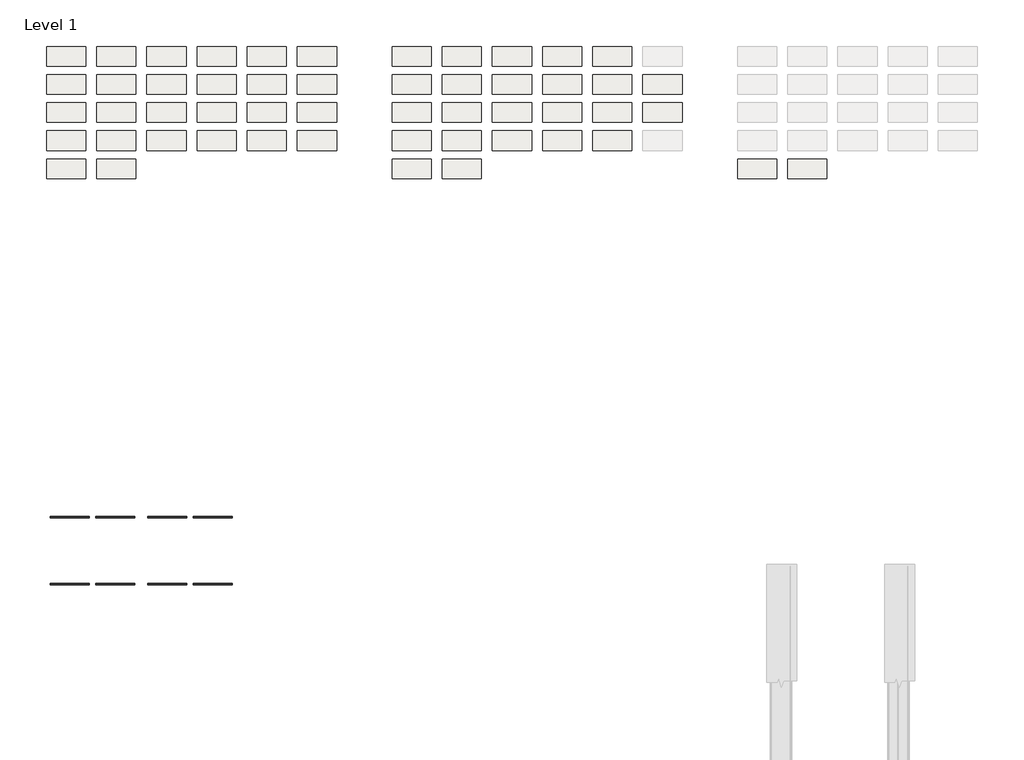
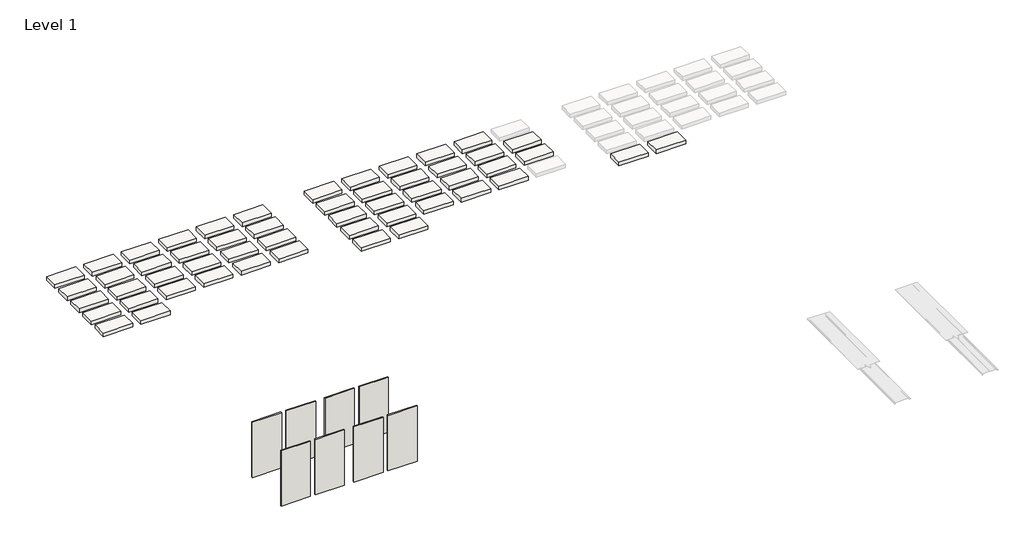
# One storey, part 1 of 2: 52 slabs, 8 walls.
"""IFC4 building model written with IfcOpenShell, lengths in millimetres."""

from ifc_helpers import new_model, si_unit, frame, origin, origin_with_axes, place, context, project, spatial, polyline, outline, extrude, element, save

model = new_model("IFC4")

# Units and contexts
model_context = context("Model", 3, world=origin())
ifc_project = project(units=[si_unit("LENGTHUNIT", "METRE", prefix="MILLI")], contexts=[model_context])

# Site, building, storey
site = spatial("IfcSite", under=ifc_project)
building = spatial("IfcBuilding", under=site)
storey = spatial("IfcBuildingStorey", under=building, Name="Level 1", Elevation=0.0)

# Slabs
placement = place(None, origin())
element("IfcSlab", 1, ObjectType="AEP Span Material Sample", at=placement, inside=storey, context=model_context, shape_type="SweptSolid", body=[
    extrude(outline(polyline([(-4307.8660775, 7199.3976846), (-4917.4660775, 7199.3976846), (-4917.4660775, 7504.1976846), (-4307.8660775, 7504.1976846), (-4307.8660775, 7199.3976846)])), frame((0.0, 0.0, -79.375), z_axis=(0.0, 0.0, 1.0), x_axis=(1.0, 0.0, 0.0)), (0.0, 0.0, 1.0), 79.375),
])
element("IfcSlab", 2, ObjectType="AEP Span Material Sample", at=placement, inside=storey, context=model_context, shape_type="SweptSolid", body=[
    extrude(outline(polyline([(-3526.8160775, 7199.3976846), (-4136.4160775, 7199.3976846), (-4136.4160775, 7504.1976846), (-3526.8160775, 7504.1976846), (-3526.8160775, 7199.3976846)])), frame((0.0, 0.0, -79.375), z_axis=(0.0, 0.0, 1.0), x_axis=(1.0, 0.0, 0.0)), (0.0, 0.0, 1.0), 79.375),
])
element("IfcSlab", 3, ObjectType="AEP Span Material Sample", at=placement, inside=storey, context=model_context, shape_type="SweptSolid", body=[
    extrude(outline(polyline([(-2745.7660775, 7199.3976846), (-3355.3660775, 7199.3976846), (-3355.3660775, 7504.1976846), (-2745.7660775, 7504.1976846), (-2745.7660775, 7199.3976846)])), frame((0.0, 0.0, -79.375), z_axis=(0.0, 0.0, 1.0), x_axis=(1.0, 0.0, 0.0)), (0.0, 0.0, 1.0), 79.375),
])
element("IfcSlab", 4, ObjectType="AEP Span Material Sample", at=placement, inside=storey, context=model_context, shape_type="SweptSolid", body=[
    extrude(outline(polyline([(-1964.7160775, 7199.3976846), (-2574.3160775, 7199.3976846), (-2574.3160775, 7504.1976846), (-1964.7160775, 7504.1976846), (-1964.7160775, 7199.3976846)])), frame((0.0, 0.0, -79.375), z_axis=(0.0, 0.0, 1.0), x_axis=(1.0, 0.0, 0.0)), (0.0, 0.0, 1.0), 79.375),
])
element("IfcSlab", 5, ObjectType="AEP Span Material Sample", at=placement, inside=storey, context=model_context, shape_type="SweptSolid", body=[
    extrude(outline(polyline([(-1183.6660775, 7199.3976846), (-1793.2660775, 7199.3976846), (-1793.2660775, 7504.1976846), (-1183.6660775, 7504.1976846), (-1183.6660775, 7199.3976846)])), frame((0.0, 0.0, -79.375), z_axis=(0.0, 0.0, 1.0), x_axis=(1.0, 0.0, 0.0)), (0.0, 0.0, 1.0), 79.375),
])
element("IfcSlab", 6, ObjectType="AEP Span Material Sample", at=placement, inside=storey, context=model_context, shape_type="SweptSolid", body=[
    extrude(outline(polyline([(-402.6160775, 7199.3976846), (-1012.2160775, 7199.3976846), (-1012.2160775, 7504.1976846), (-402.6160775, 7504.1976846), (-402.6160775, 7199.3976846)])), frame((0.0, 0.0, -79.375), z_axis=(0.0, 0.0, 1.0), x_axis=(1.0, 0.0, 0.0)), (0.0, 0.0, 1.0), 79.375),
])
element("IfcSlab", 7, ObjectType="AEP Span Material Sample", at=placement, inside=storey, context=model_context, shape_type="SweptSolid", body=[
    extrude(outline(polyline([(-4307.8660775, 6761.2476846), (-4917.4660775, 6761.2476846), (-4917.4660775, 7066.0476846), (-4307.8660775, 7066.0476846), (-4307.8660775, 6761.2476846)])), frame((0.0, 0.0, -79.375), z_axis=(0.0, 0.0, 1.0), x_axis=(1.0, 0.0, 0.0)), (0.0, 0.0, 1.0), 79.375),
])
element("IfcSlab", 8, ObjectType="AEP Span Material Sample", at=placement, inside=storey, context=model_context, shape_type="SweptSolid", body=[
    extrude(outline(polyline([(-3526.8160775, 6761.2476846), (-4136.4160775, 6761.2476846), (-4136.4160775, 7066.0476846), (-3526.8160775, 7066.0476846), (-3526.8160775, 6761.2476846)])), frame((0.0, 0.0, -79.375), z_axis=(0.0, 0.0, 1.0), x_axis=(1.0, 0.0, 0.0)), (0.0, 0.0, 1.0), 79.375),
])
element("IfcSlab", 9, ObjectType="AEP Span Material Sample", at=placement, inside=storey, context=model_context, shape_type="SweptSolid", body=[
    extrude(outline(polyline([(-2745.7660775, 6761.2476846), (-3355.3660775, 6761.2476846), (-3355.3660775, 7066.0476846), (-2745.7660775, 7066.0476846), (-2745.7660775, 6761.2476846)])), frame((0.0, 0.0, -79.375), z_axis=(0.0, 0.0, 1.0), x_axis=(1.0, 0.0, 0.0)), (0.0, 0.0, 1.0), 79.375),
])
element("IfcSlab", 10, ObjectType="AEP Span Material Sample", at=placement, inside=storey, context=model_context, shape_type="SweptSolid", body=[
    extrude(outline(polyline([(-1964.7160775, 6761.2476846), (-2574.3160775, 6761.2476846), (-2574.3160775, 7066.0476846), (-1964.7160775, 7066.0476846), (-1964.7160775, 6761.2476846)])), frame((0.0, 0.0, -79.375), z_axis=(0.0, 0.0, 1.0), x_axis=(1.0, 0.0, 0.0)), (0.0, 0.0, 1.0), 79.375),
])
element("IfcSlab", 11, ObjectType="AEP Span Material Sample", at=placement, inside=storey, context=model_context, shape_type="SweptSolid", body=[
    extrude(outline(polyline([(-1183.6660775, 6761.2476846), (-1793.2660775, 6761.2476846), (-1793.2660775, 7066.0476846), (-1183.6660775, 7066.0476846), (-1183.6660775, 6761.2476846)])), frame((0.0, 0.0, -79.375), z_axis=(0.0, 0.0, 1.0), x_axis=(1.0, 0.0, 0.0)), (0.0, 0.0, 1.0), 79.375),
])
element("IfcSlab", 12, ObjectType="AEP Span Material Sample", at=placement, inside=storey, context=model_context, shape_type="SweptSolid", body=[
    extrude(outline(polyline([(-402.6160775, 6761.2476846), (-1012.2160775, 6761.2476846), (-1012.2160775, 7066.0476846), (-402.6160775, 7066.0476846), (-402.6160775, 6761.2476846)])), frame((0.0, 0.0, -79.375), z_axis=(0.0, 0.0, 1.0), x_axis=(1.0, 0.0, 0.0)), (0.0, 0.0, 1.0), 79.375),
])
element("IfcSlab", 13, ObjectType="AEP Span Material Sample", at=placement, inside=storey, context=model_context, shape_type="SweptSolid", body=[
    extrude(outline(polyline([(-4307.8660775, 6323.0976846), (-4917.4660775, 6323.0976846), (-4917.4660775, 6627.8976846), (-4307.8660775, 6627.8976846), (-4307.8660775, 6323.0976846)])), frame((0.0, 0.0, -79.375), z_axis=(0.0, 0.0, 1.0), x_axis=(1.0, 0.0, 0.0)), (0.0, 0.0, 1.0), 79.375),
])
element("IfcSlab", 14, ObjectType="AEP Span Material Sample", at=placement, inside=storey, context=model_context, shape_type="SweptSolid", body=[
    extrude(outline(polyline([(-3526.8160775, 6323.0976846), (-4136.4160775, 6323.0976846), (-4136.4160775, 6627.8976846), (-3526.8160775, 6627.8976846), (-3526.8160775, 6323.0976846)])), frame((0.0, 0.0, -79.375), z_axis=(0.0, 0.0, 1.0), x_axis=(1.0, 0.0, 0.0)), (0.0, 0.0, 1.0), 79.375),
])
element("IfcSlab", 15, ObjectType="AEP Span Material Sample", at=placement, inside=storey, context=model_context, shape_type="SweptSolid", body=[
    extrude(outline(polyline([(-2745.7660775, 6323.0976846), (-3355.3660775, 6323.0976846), (-3355.3660775, 6627.8976846), (-2745.7660775, 6627.8976846), (-2745.7660775, 6323.0976846)])), frame((0.0, 0.0, -79.375), z_axis=(0.0, 0.0, 1.0), x_axis=(1.0, 0.0, 0.0)), (0.0, 0.0, 1.0), 79.375),
])
element("IfcSlab", 16, ObjectType="AEP Span Material Sample", at=placement, inside=storey, context=model_context, shape_type="SweptSolid", body=[
    extrude(outline(polyline([(-1964.7160775, 6323.0976846), (-2574.3160775, 6323.0976846), (-2574.3160775, 6627.8976846), (-1964.7160775, 6627.8976846), (-1964.7160775, 6323.0976846)])), frame((0.0, 0.0, -79.375), z_axis=(0.0, 0.0, 1.0), x_axis=(1.0, 0.0, 0.0)), (0.0, 0.0, 1.0), 79.375),
])
element("IfcSlab", 17, ObjectType="AEP Span Material Sample", at=placement, inside=storey, context=model_context, shape_type="SweptSolid", body=[
    extrude(outline(polyline([(-1183.6660775, 6323.0976846), (-1793.2660775, 6323.0976846), (-1793.2660775, 6627.8976846), (-1183.6660775, 6627.8976846), (-1183.6660775, 6323.0976846)])), frame((0.0, 0.0, -79.375), z_axis=(0.0, 0.0, 1.0), x_axis=(1.0, 0.0, 0.0)), (0.0, 0.0, 1.0), 79.375),
])
element("IfcSlab", 18, ObjectType="AEP Span Material Sample", at=placement, inside=storey, context=model_context, shape_type="SweptSolid", body=[
    extrude(outline(polyline([(-402.6160775, 6323.0976846), (-1012.2160775, 6323.0976846), (-1012.2160775, 6627.8976846), (-402.6160775, 6627.8976846), (-402.6160775, 6323.0976846)])), frame((0.0, 0.0, -79.375), z_axis=(0.0, 0.0, 1.0), x_axis=(1.0, 0.0, 0.0)), (0.0, 0.0, 1.0), 79.375),
])
element("IfcSlab", 19, ObjectType="AEP Span Material Sample", at=placement, inside=storey, context=model_context, shape_type="SweptSolid", body=[
    extrude(outline(polyline([(-4307.8660775, 5884.9476846), (-4917.4660775, 5884.9476846), (-4917.4660775, 6189.7476846), (-4307.8660775, 6189.7476846), (-4307.8660775, 5884.9476846)])), frame((0.0, 0.0, -79.375), z_axis=(0.0, 0.0, 1.0), x_axis=(1.0, 0.0, 0.0)), (0.0, 0.0, 1.0), 79.375),
])
element("IfcSlab", 20, ObjectType="AEP Span Material Sample", at=placement, inside=storey, context=model_context, shape_type="SweptSolid", body=[
    extrude(outline(polyline([(-3526.8160775, 5884.9476846), (-4136.4160775, 5884.9476846), (-4136.4160775, 6189.7476846), (-3526.8160775, 6189.7476846), (-3526.8160775, 5884.9476846)])), frame((0.0, 0.0, -79.375), z_axis=(0.0, 0.0, 1.0), x_axis=(1.0, 0.0, 0.0)), (0.0, 0.0, 1.0), 79.375),
])
element("IfcSlab", 21, ObjectType="AEP Span Material Sample", at=placement, inside=storey, context=model_context, shape_type="SweptSolid", body=[
    extrude(outline(polyline([(-2745.7660775, 5884.9476846), (-3355.3660775, 5884.9476846), (-3355.3660775, 6189.7476846), (-2745.7660775, 6189.7476846), (-2745.7660775, 5884.9476846)])), frame((0.0, 0.0, -79.375), z_axis=(0.0, 0.0, 1.0), x_axis=(1.0, 0.0, 0.0)), (0.0, 0.0, 1.0), 79.375),
])
element("IfcSlab", 22, ObjectType="AEP Span Material Sample", at=placement, inside=storey, context=model_context, shape_type="SweptSolid", body=[
    extrude(outline(polyline([(-1964.7160775, 5884.9476846), (-2574.3160775, 5884.9476846), (-2574.3160775, 6189.7476846), (-1964.7160775, 6189.7476846), (-1964.7160775, 5884.9476846)])), frame((0.0, 0.0, -79.375), z_axis=(0.0, 0.0, 1.0), x_axis=(1.0, 0.0, 0.0)), (0.0, 0.0, 1.0), 79.375),
])
element("IfcSlab", 23, ObjectType="AEP Span Material Sample", at=placement, inside=storey, context=model_context, shape_type="SweptSolid", body=[
    extrude(outline(polyline([(-1183.6660775, 5884.9476846), (-1793.2660775, 5884.9476846), (-1793.2660775, 6189.7476846), (-1183.6660775, 6189.7476846), (-1183.6660775, 5884.9476846)])), frame((0.0, 0.0, -79.375), z_axis=(0.0, 0.0, 1.0), x_axis=(1.0, 0.0, 0.0)), (0.0, 0.0, 1.0), 79.375),
])
element("IfcSlab", 24, ObjectType="AEP Span Material Sample", at=placement, inside=storey, context=model_context, shape_type="SweptSolid", body=[
    extrude(outline(polyline([(-402.6160775, 5884.9476846), (-1012.2160775, 5884.9476846), (-1012.2160775, 6189.7476846), (-402.6160775, 6189.7476846), (-402.6160775, 5884.9476846)])), frame((0.0, 0.0, -79.375), z_axis=(0.0, 0.0, 1.0), x_axis=(1.0, 0.0, 0.0)), (0.0, 0.0, 1.0), 79.375),
])
element("IfcSlab", 25, ObjectType="AEP Span Material Sample", at=placement, inside=storey, context=model_context, shape_type="SweptSolid", body=[
    extrude(outline(polyline([(-4307.8660775, 5446.7976846), (-4917.4660775, 5446.7976846), (-4917.4660775, 5751.5976846), (-4307.8660775, 5751.5976846), (-4307.8660775, 5446.7976846)])), frame((0.0, 0.0, -79.375), z_axis=(0.0, 0.0, 1.0), x_axis=(1.0, 0.0, 0.0)), (0.0, 0.0, 1.0), 79.375),
])
element("IfcSlab", 26, ObjectType="AEP Span Material Sample", at=placement, inside=storey, context=model_context, shape_type="SweptSolid", body=[
    extrude(outline(polyline([(-3526.8160775, 5446.7976846), (-4136.4160775, 5446.7976846), (-4136.4160775, 5751.5976846), (-3526.8160775, 5751.5976846), (-3526.8160775, 5446.7976846)])), frame((0.0, 0.0, -79.375), z_axis=(0.0, 0.0, 1.0), x_axis=(1.0, 0.0, 0.0)), (0.0, 0.0, 1.0), 79.375),
])
element("IfcSlab", 27, ObjectType="AEP Span Material Sample", at=placement, inside=storey, context=model_context, shape_type="SweptSolid", body=[
    extrude(outline(polyline([(1070.5839225, 7199.3976846), (460.9839225, 7199.3976846), (460.9839225, 7504.1976846), (1070.5839225, 7504.1976846), (1070.5839225, 7199.3976846)])), frame((0.0, 0.0, -79.375), z_axis=(0.0, 0.0, 1.0), x_axis=(1.0, 0.0, 0.0)), (0.0, 0.0, 1.0), 79.375),
])
element("IfcSlab", 28, ObjectType="AEP Span Material Sample", at=placement, inside=storey, context=model_context, shape_type="SweptSolid", body=[
    extrude(outline(polyline([(1851.6339225, 7199.3976846), (1242.0339225, 7199.3976846), (1242.0339225, 7504.1976846), (1851.6339225, 7504.1976846), (1851.6339225, 7199.3976846)])), frame((0.0, 0.0, -79.375), z_axis=(0.0, 0.0, 1.0), x_axis=(1.0, 0.0, 0.0)), (0.0, 0.0, 1.0), 79.375),
])
element("IfcSlab", 29, ObjectType="AEP Span Material Sample", at=placement, inside=storey, context=model_context, shape_type="SweptSolid", body=[
    extrude(outline(polyline([(2632.6839225, 7199.3976846), (2023.0839225, 7199.3976846), (2023.0839225, 7504.1976846), (2632.6839225, 7504.1976846), (2632.6839225, 7199.3976846)])), frame((0.0, 0.0, -79.375), z_axis=(0.0, 0.0, 1.0), x_axis=(1.0, 0.0, 0.0)), (0.0, 0.0, 1.0), 79.375),
])
element("IfcSlab", 30, ObjectType="AEP Span Material Sample", at=placement, inside=storey, context=model_context, shape_type="SweptSolid", body=[
    extrude(outline(polyline([(3413.7339225, 7199.3976846), (2804.1339225, 7199.3976846), (2804.1339225, 7504.1976846), (3413.7339225, 7504.1976846), (3413.7339225, 7199.3976846)])), frame((0.0, 0.0, -79.375), z_axis=(0.0, 0.0, 1.0), x_axis=(1.0, 0.0, 0.0)), (0.0, 0.0, 1.0), 79.375),
])
element("IfcSlab", 31, ObjectType="AEP Span Material Sample", at=placement, inside=storey, context=model_context, shape_type="SweptSolid", body=[
    extrude(outline(polyline([(4194.7839225, 7199.3976846), (3585.1839225, 7199.3976846), (3585.1839225, 7504.1976846), (4194.7839225, 7504.1976846), (4194.7839225, 7199.3976846)])), frame((0.0, 0.0, -79.375), z_axis=(0.0, 0.0, 1.0), x_axis=(1.0, 0.0, 0.0)), (0.0, 0.0, 1.0), 79.375),
])
element("IfcSlab", 32, ObjectType="AEP Span Material Sample", at=placement, inside=storey, context=model_context, shape_type="SweptSolid", body=[
    extrude(outline(polyline([(1070.5839225, 6761.2476846), (460.9839225, 6761.2476846), (460.9839225, 7066.0476846), (1070.5839225, 7066.0476846), (1070.5839225, 6761.2476846)])), frame((0.0, 0.0, -79.375), z_axis=(0.0, 0.0, 1.0), x_axis=(1.0, 0.0, 0.0)), (0.0, 0.0, 1.0), 79.375),
])
element("IfcSlab", 33, ObjectType="AEP Span Material Sample", at=placement, inside=storey, context=model_context, shape_type="SweptSolid", body=[
    extrude(outline(polyline([(1851.6339225, 6761.2476846), (1242.0339225, 6761.2476846), (1242.0339225, 7066.0476846), (1851.6339225, 7066.0476846), (1851.6339225, 6761.2476846)])), frame((0.0, 0.0, -79.375), z_axis=(0.0, 0.0, 1.0), x_axis=(1.0, 0.0, 0.0)), (0.0, 0.0, 1.0), 79.375),
])
element("IfcSlab", 34, ObjectType="AEP Span Material Sample", at=placement, inside=storey, context=model_context, shape_type="SweptSolid", body=[
    extrude(outline(polyline([(2632.6839225, 6761.2476846), (2023.0839225, 6761.2476846), (2023.0839225, 7066.0476846), (2632.6839225, 7066.0476846), (2632.6839225, 6761.2476846)])), frame((0.0, 0.0, -79.375), z_axis=(0.0, 0.0, 1.0), x_axis=(1.0, 0.0, 0.0)), (0.0, 0.0, 1.0), 79.375),
])
element("IfcSlab", 35, ObjectType="AEP Span Material Sample", at=placement, inside=storey, context=model_context, shape_type="SweptSolid", body=[
    extrude(outline(polyline([(3413.7339225, 6761.2476846), (2804.1339225, 6761.2476846), (2804.1339225, 7066.0476846), (3413.7339225, 7066.0476846), (3413.7339225, 6761.2476846)])), frame((0.0, 0.0, -79.375), z_axis=(0.0, 0.0, 1.0), x_axis=(1.0, 0.0, 0.0)), (0.0, 0.0, 1.0), 79.375),
])
element("IfcSlab", 36, ObjectType="AEP Span Material Sample", at=placement, inside=storey, context=model_context, shape_type="SweptSolid", body=[
    extrude(outline(polyline([(4194.7839225, 6761.2476846), (3585.1839225, 6761.2476846), (3585.1839225, 7066.0476846), (4194.7839225, 7066.0476846), (4194.7839225, 6761.2476846)])), frame((0.0, 0.0, -79.375), z_axis=(0.0, 0.0, 1.0), x_axis=(1.0, 0.0, 0.0)), (0.0, 0.0, 1.0), 79.375),
])
element("IfcSlab", 37, ObjectType="AEP Span Material Sample", at=placement, inside=storey, context=model_context, shape_type="SweptSolid", body=[
    extrude(outline(polyline([(4975.8339225, 6761.2476846), (4366.2339225, 6761.2476846), (4366.2339225, 7066.0476846), (4975.8339225, 7066.0476846), (4975.8339225, 6761.2476846)])), frame((0.0, 0.0, -79.375), z_axis=(0.0, 0.0, 1.0), x_axis=(1.0, 0.0, 0.0)), (0.0, 0.0, 1.0), 79.375),
])
element("IfcSlab", 38, ObjectType="AEP Span Material Sample", at=placement, inside=storey, context=model_context, shape_type="SweptSolid", body=[
    extrude(outline(polyline([(1070.5839225, 6323.0976846), (460.9839225, 6323.0976846), (460.9839225, 6627.8976846), (1070.5839225, 6627.8976846), (1070.5839225, 6323.0976846)])), frame((0.0, 0.0, -79.375), z_axis=(0.0, 0.0, 1.0), x_axis=(1.0, 0.0, 0.0)), (0.0, 0.0, 1.0), 79.375),
])
element("IfcSlab", 39, ObjectType="AEP Span Material Sample", at=placement, inside=storey, context=model_context, shape_type="SweptSolid", body=[
    extrude(outline(polyline([(1851.6339225, 6323.0976846), (1242.0339225, 6323.0976846), (1242.0339225, 6627.8976846), (1851.6339225, 6627.8976846), (1851.6339225, 6323.0976846)])), frame((0.0, 0.0, -79.375), z_axis=(0.0, 0.0, 1.0), x_axis=(1.0, 0.0, 0.0)), (0.0, 0.0, 1.0), 79.375),
])
element("IfcSlab", 40, ObjectType="AEP Span Material Sample", at=placement, inside=storey, context=model_context, shape_type="SweptSolid", body=[
    extrude(outline(polyline([(2632.6839225, 6323.0976846), (2023.0839225, 6323.0976846), (2023.0839225, 6627.8976846), (2632.6839225, 6627.8976846), (2632.6839225, 6323.0976846)])), frame((0.0, 0.0, -79.375), z_axis=(0.0, 0.0, 1.0), x_axis=(1.0, 0.0, 0.0)), (0.0, 0.0, 1.0), 79.375),
])
element("IfcSlab", 41, ObjectType="AEP Span Material Sample", at=placement, inside=storey, context=model_context, shape_type="SweptSolid", body=[
    extrude(outline(polyline([(3413.7339225, 6323.0976846), (2804.1339225, 6323.0976846), (2804.1339225, 6627.8976846), (3413.7339225, 6627.8976846), (3413.7339225, 6323.0976846)])), frame((0.0, 0.0, -79.375), z_axis=(0.0, 0.0, 1.0), x_axis=(1.0, 0.0, 0.0)), (0.0, 0.0, 1.0), 79.375),
])
element("IfcSlab", 42, ObjectType="AEP Span Material Sample", at=placement, inside=storey, context=model_context, shape_type="SweptSolid", body=[
    extrude(outline(polyline([(4194.7839225, 6323.0976846), (3585.1839225, 6323.0976846), (3585.1839225, 6627.8976846), (4194.7839225, 6627.8976846), (4194.7839225, 6323.0976846)])), frame((0.0, 0.0, -79.375), z_axis=(0.0, 0.0, 1.0), x_axis=(1.0, 0.0, 0.0)), (0.0, 0.0, 1.0), 79.375),
])
element("IfcSlab", 43, ObjectType="AEP Span Material Sample", at=placement, inside=storey, context=model_context, shape_type="SweptSolid", body=[
    extrude(outline(polyline([(4975.8339225, 6323.0976846), (4366.2339225, 6323.0976846), (4366.2339225, 6627.8976846), (4975.8339225, 6627.8976846), (4975.8339225, 6323.0976846)])), frame((0.0, 0.0, -79.375), z_axis=(0.0, 0.0, 1.0), x_axis=(1.0, 0.0, 0.0)), (0.0, 0.0, 1.0), 79.375),
])
element("IfcSlab", 44, ObjectType="AEP Span Material Sample", at=placement, inside=storey, context=model_context, shape_type="SweptSolid", body=[
    extrude(outline(polyline([(1070.5839225, 5884.9476846), (460.9839225, 5884.9476846), (460.9839225, 6189.7476846), (1070.5839225, 6189.7476846), (1070.5839225, 5884.9476846)])), frame((0.0, 0.0, -79.375), z_axis=(0.0, 0.0, 1.0), x_axis=(1.0, 0.0, 0.0)), (0.0, 0.0, 1.0), 79.375),
])
element("IfcSlab", 45, ObjectType="AEP Span Material Sample", at=placement, inside=storey, context=model_context, shape_type="SweptSolid", body=[
    extrude(outline(polyline([(1851.6339225, 5884.9476846), (1242.0339225, 5884.9476846), (1242.0339225, 6189.7476846), (1851.6339225, 6189.7476846), (1851.6339225, 5884.9476846)])), frame((0.0, 0.0, -79.375), z_axis=(0.0, 0.0, 1.0), x_axis=(1.0, 0.0, 0.0)), (0.0, 0.0, 1.0), 79.375),
])
element("IfcSlab", 46, ObjectType="AEP Span Material Sample", at=placement, inside=storey, context=model_context, shape_type="SweptSolid", body=[
    extrude(outline(polyline([(2632.6839225, 5884.9476846), (2023.0839225, 5884.9476846), (2023.0839225, 6189.7476846), (2632.6839225, 6189.7476846), (2632.6839225, 5884.9476846)])), frame((0.0, 0.0, -79.375), z_axis=(0.0, 0.0, 1.0), x_axis=(1.0, 0.0, 0.0)), (0.0, 0.0, 1.0), 79.375),
])
element("IfcSlab", 47, ObjectType="AEP Span Material Sample", at=placement, inside=storey, context=model_context, shape_type="SweptSolid", body=[
    extrude(outline(polyline([(3413.7339225, 5884.9476846), (2804.1339225, 5884.9476846), (2804.1339225, 6189.7476846), (3413.7339225, 6189.7476846), (3413.7339225, 5884.9476846)])), frame((0.0, 0.0, -79.375), z_axis=(0.0, 0.0, 1.0), x_axis=(1.0, 0.0, 0.0)), (0.0, 0.0, 1.0), 79.375),
])
element("IfcSlab", 48, ObjectType="AEP Span Material Sample", at=placement, inside=storey, context=model_context, shape_type="SweptSolid", body=[
    extrude(outline(polyline([(4194.7839225, 5884.9476846), (3585.1839225, 5884.9476846), (3585.1839225, 6189.7476846), (4194.7839225, 6189.7476846), (4194.7839225, 5884.9476846)])), frame((0.0, 0.0, -79.375), z_axis=(0.0, 0.0, 1.0), x_axis=(1.0, 0.0, 0.0)), (0.0, 0.0, 1.0), 79.375),
])
element("IfcSlab", 49, ObjectType="AEP Span Material Sample", at=placement, inside=storey, context=model_context, shape_type="SweptSolid", body=[
    extrude(outline(polyline([(1070.5839225, 5446.7976846), (460.9839225, 5446.7976846), (460.9839225, 5751.5976846), (1070.5839225, 5751.5976846), (1070.5839225, 5446.7976846)])), frame((0.0, 0.0, -79.375), z_axis=(0.0, 0.0, 1.0), x_axis=(1.0, 0.0, 0.0)), (0.0, 0.0, 1.0), 79.375),
])
element("IfcSlab", 50, ObjectType="AEP Span Material Sample", at=placement, inside=storey, context=model_context, shape_type="SweptSolid", body=[
    extrude(outline(polyline([(1851.6339225, 5446.7976846), (1242.0339225, 5446.7976846), (1242.0339225, 5751.5976846), (1851.6339225, 5751.5976846), (1851.6339225, 5446.7976846)])), frame((0.0, 0.0, -79.375), z_axis=(0.0, 0.0, 1.0), x_axis=(1.0, 0.0, 0.0)), (0.0, 0.0, 1.0), 79.375),
])
element("IfcSlab", 51, ObjectType="AEP Span Material Sample", at=placement, inside=storey, context=model_context, shape_type="SweptSolid", body=[
    extrude(outline(polyline([(6449.0339225, 5446.7976846), (5839.4339225, 5446.7976846), (5839.4339225, 5751.5976846), (6449.0339225, 5751.5976846), (6449.0339225, 5446.7976846)])), frame((0.0, 0.0, -79.375), z_axis=(0.0, 0.0, 1.0), x_axis=(1.0, 0.0, 0.0)), (0.0, 0.0, 1.0), 79.375),
])
element("IfcSlab", 52, ObjectType="AEP Span Material Sample", at=placement, inside=storey, context=model_context, shape_type="SweptSolid", body=[
    extrude(outline(polyline([(7230.0839225, 5446.7976846), (6620.4839225, 5446.7976846), (6620.4839225, 5751.5976846), (7230.0839225, 5751.5976846), (7230.0839225, 5446.7976846)])), frame((0.0, 0.0, -79.375), z_axis=(0.0, 0.0, 1.0), x_axis=(1.0, 0.0, 0.0)), (0.0, 0.0, 1.0), 79.375),
])

# Walls
element("IfcWall", 53, ObjectType="12\" Flush Panel Vented - Vertical - 22ga", at=placement, inside=storey, context=model_context, shape_type="SweptSolid", body=[
    extrude(outline(polyline([(-3542.2865006, 160.5189445), (-4151.8865006, 160.5189445), (-4151.8865006, 182.7439445), (-3542.2865006, 182.7439445), (-3542.2865006, 160.5189445)])), origin_with_axes(), (0.0, 0.0, 1.0), 1219.2),
])
element("IfcWall", 54, ObjectType="12\" Flush Panel Vented - Vertical - 24ga", at=placement, inside=storey, context=model_context, shape_type="SweptSolid", body=[
    extrude(outline(polyline([(-2024.6365006, 160.5189445), (-2634.2365006, 160.5189445), (-2634.2365006, 182.7439445), (-2024.6365006, 182.7439445), (-2024.6365006, 160.5189445)])), origin_with_axes(), (0.0, 0.0, 1.0), 1219.2),
])
element("IfcWall", 55, ObjectType="12\" Flush Panel Vented - Horizontal - 22ga", at=placement, inside=storey, context=model_context, shape_type="SweptSolid", body=[
    extrude(outline(polyline([(-3542.2865006, -880.8810555), (-4151.8865006, -880.8810555), (-4151.8865006, -858.6560555), (-3542.2865006, -858.6560555), (-3542.2865006, -880.8810555)])), origin_with_axes(), (0.0, 0.0, 1.0), 1219.2),
])
element("IfcWall", 56, ObjectType="12\" Flush Panel Vented - Horizontal - 24ga", at=placement, inside=storey, context=model_context, shape_type="SweptSolid", body=[
    extrude(outline(polyline([(-2024.6365006, -880.8810555), (-2634.2365006, -880.8810555), (-2634.2365006, -858.6560555), (-2024.6365006, -858.6560555), (-2024.6365006, -880.8810555)])), origin_with_axes(), (0.0, 0.0, 1.0), 1219.2),
])
element("IfcWall", 57, ObjectType="12\" Flush Panel - Horizontal - 22ga", at=placement, inside=storey, context=model_context, shape_type="SweptSolid", body=[
    extrude(outline(polyline([(-4253.4865006, -880.8810555), (-4863.0865006, -880.8810555), (-4863.0865006, -858.6560555), (-4253.4865006, -858.6560555), (-4253.4865006, -880.8810555)])), origin_with_axes(), (0.0, 0.0, 1.0), 1219.2),
])
element("IfcWall", 58, ObjectType="12\" Flush Panel - Horizontal - 24ga", at=placement, inside=storey, context=model_context, shape_type="SweptSolid", body=[
    extrude(outline(polyline([(-2735.8365006, -880.8810555), (-3345.4365006, -880.8810555), (-3345.4365006, -858.6560555), (-2735.8365006, -858.6560555), (-2735.8365006, -880.8810555)])), origin_with_axes(), (0.0, 0.0, 1.0), 1219.2),
])
element("IfcWall", 59, ObjectType="12\" Flush Panel - Vertical - 22ga", at=placement, inside=storey, context=model_context, shape_type="SweptSolid", body=[
    extrude(outline(polyline([(-4253.4865006, 160.5189445), (-4863.0865006, 160.5189445), (-4863.0865006, 182.7439445), (-4253.4865006, 182.7439445), (-4253.4865006, 160.5189445)])), origin_with_axes(), (0.0, 0.0, 1.0), 1219.2),
])
element("IfcWall", 60, ObjectType="12\" Flush Panel - Vertical - 24ga", at=placement, inside=storey, context=model_context, shape_type="SweptSolid", body=[
    extrude(outline(polyline([(-2735.8365006, 160.5189445), (-3345.4365006, 160.5189445), (-3345.4365006, 182.7439445), (-2735.8365006, 182.7439445), (-2735.8365006, 160.5189445)])), origin_with_axes(), (0.0, 0.0, 1.0), 1219.2),
])

save(model, "model.ifc")
